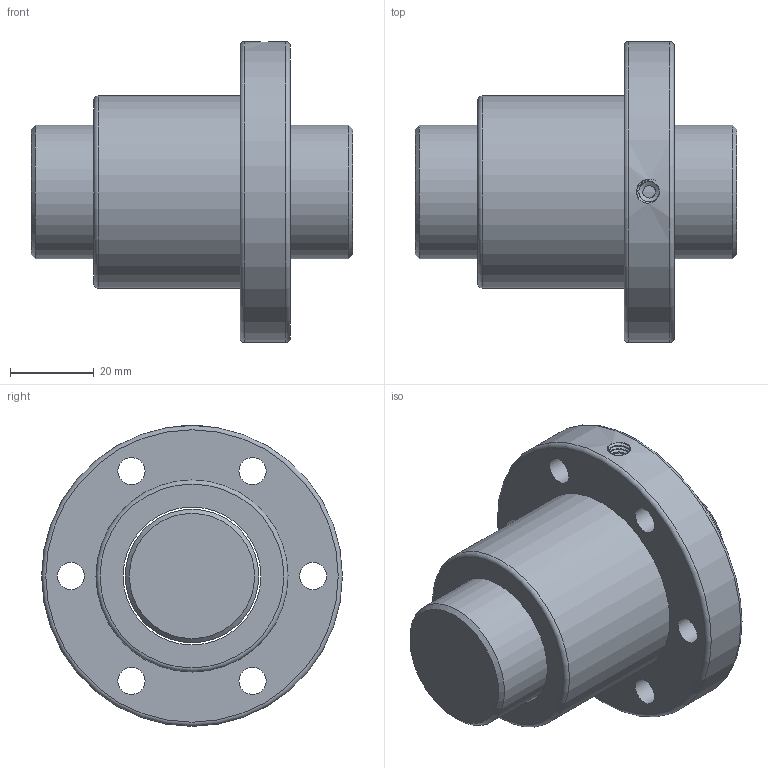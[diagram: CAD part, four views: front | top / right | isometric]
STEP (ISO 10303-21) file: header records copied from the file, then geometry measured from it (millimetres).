
FILE_DESCRIPTION(/* description */ ('Unknown','CAx-IF Rec.Pracs.---Representation and Presentation of Product Manufacturing Information (PMI)---4.0---2014-10-13','CAx-IF Rec.Pracs.---3D Tessellated Geometry---0.4---2014-09-14','2;1'),/* implementation_level */ '2;1');
FILE_NAME(/* name */ 'SFI03204',/* time_stamp */ '2020-12-06T19:13:37+08:00',/* author */ ('Unknown'),/* organization */ ('Unknown'),/* preprocessor_version */ 'ST-DEVELOPER v16.7',/* originating_system */ 'Solid Edge',/* authorisation */ 'Unknown');
FILE_SCHEMA (('AP242_MANAGED_MODEL_BASED_3D_ENGINEERING_MIM_LF { 1 0 10303 442 1 1 4 }'));
Length unit declared in the file: millimetre
Products named in the file (1): SFI03204
Bounding box: 77 x 72 x 72 mm (x, y, z)
Volume: 123468.6 mm3; surface area: 29970.7 mm2
Topology: 2 solids, 2 shells, 39 faces, 77 edges, 49 vertices
Faces by surface type: cylinder 19, plane 12, torus 3, cone 3, bspline 2
Full cylindrical faces by diameter (mm): 3 x1, 6.5 x6, 11 x6, 32 x1, 33 x1, 46 x1, 72 x1
Entity records: 3198 total; most frequent: CARTESIAN_POINT 2379, DIRECTION 164, ORIENTED_EDGE 104, EDGE_LOOP 85, FACE_BOUND 85, AXIS2_PLACEMENT_3D 83, EDGE_CURVE 52, VERTEX_POINT 47
